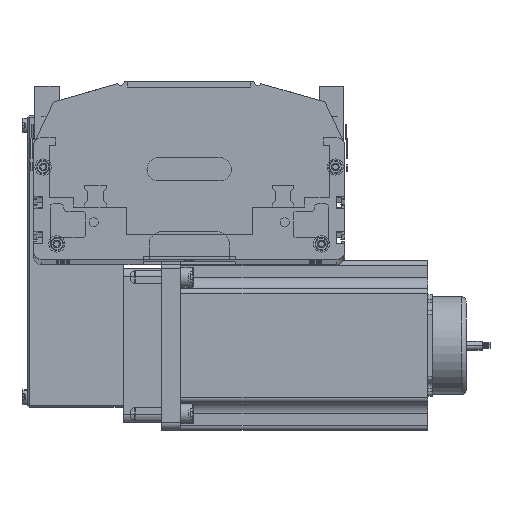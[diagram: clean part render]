
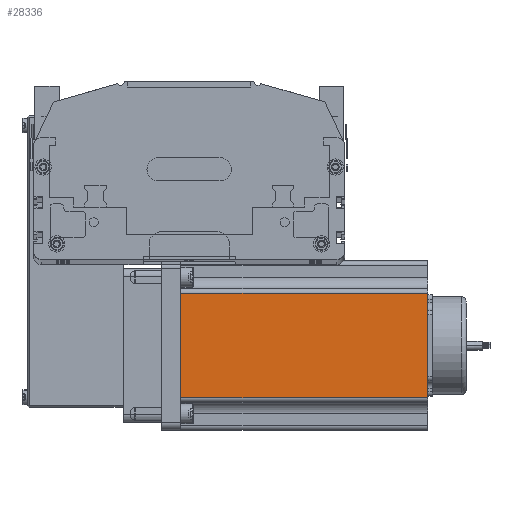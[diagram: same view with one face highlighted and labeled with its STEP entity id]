
A CAD part, top view. The second image highlights one B-rep face of the part: STEP entity #28336.
In plain terms, the highlighted planar face has unit normal (0, 0, 1) as drawn and (0, -1, 0) by its records, which use the part's own axes.
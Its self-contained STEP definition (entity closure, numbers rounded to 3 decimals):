
#28123 = ORIENTED_EDGE ( 'NONE', *, *, #28352, .T. ) ;
#28304 = EDGE_LOOP ( 'NONE', ( #28123, #28339, #28310, #28612 ) ) ;
#28310 = ORIENTED_EDGE ( 'NONE', *, *, #28599, .F. ) ;
#28336 = ADVANCED_FACE ( 'NONE', ( #39630 ), #39594, .F. ) ;
#28339 = ORIENTED_EDGE ( 'NONE', *, *, #28346, .T. ) ;
#28346 = EDGE_CURVE ( 'NONE', #28381, #28411, #39793, .T. ) ;
#28352 = EDGE_CURVE ( 'NONE', #28440, #28381, #39778, .T. ) ;
#28381 = VERTEX_POINT ( 'NONE', #39729 ) ;
#28406 = VERTEX_POINT ( 'NONE', #39840 ) ;
#28411 = VERTEX_POINT ( 'NONE', #39838 ) ;
#28440 = VERTEX_POINT ( 'NONE', #63278 ) ;
#28599 = EDGE_CURVE ( 'NONE', #28406, #28411, #63415, .T. ) ;
#28608 = EDGE_CURVE ( 'NONE', #28406, #28440, #63503, .T. ) ;
#28612 = ORIENTED_EDGE ( 'NONE', *, *, #28608, .T. ) ;
#39558 = AXIS2_PLACEMENT_3D ( 'NONE', #39592, #39582, #39581 ) ;
#39581 = DIRECTION ( 'NONE',  ( 0., 0., 1. ) ) ;
#39582 = DIRECTION ( 'NONE',  ( 0., 1., 0. ) ) ;
#39592 = CARTESIAN_POINT ( 'NONE',  ( 0., 0., 160.5 ) ) ;
#39594 = PLANE ( 'NONE',  #39558 ) ;
#39630 = FACE_OUTER_BOUND ( 'NONE', #28304, .T. ) ;
#39729 = CARTESIAN_POINT ( 'NONE',  ( 88.952, 0., 0. ) ) ;
#39774 = DIRECTION ( 'NONE',  ( 1., 0., 0. ) ) ;
#39776 = VECTOR ( 'NONE', #39774, 1000. ) ;
#39777 = CARTESIAN_POINT ( 'NONE',  ( 0., 0., 0. ) ) ;
#39778 = LINE ( 'NONE', #39777, #39776 ) ;
#39787 = DIRECTION ( 'NONE',  ( 0., 0., 1. ) ) ;
#39790 = VECTOR ( 'NONE', #39787, 1000. ) ;
#39791 = CARTESIAN_POINT ( 'NONE',  ( 88.952, 0., 160.5 ) ) ;
#39793 = LINE ( 'NONE', #39791, #39790 ) ;
#39838 = CARTESIAN_POINT ( 'NONE',  ( 88.952, 0., 160.5 ) ) ;
#39840 = CARTESIAN_POINT ( 'NONE',  ( 21.048, 0., 160.5 ) ) ;
#63278 = CARTESIAN_POINT ( 'NONE',  ( 21.048, 0., 0. ) ) ;
#63414 = CARTESIAN_POINT ( 'NONE',  ( 0., 0., 160.5 ) ) ;
#63415 = LINE ( 'NONE', #63414, #63440 ) ;
#63439 = DIRECTION ( 'NONE',  ( 1., 0., 0. ) ) ;
#63440 = VECTOR ( 'NONE', #63439, 1000. ) ;
#63498 = DIRECTION ( 'NONE',  ( 0., 0., -1. ) ) ;
#63499 = VECTOR ( 'NONE', #63498, 1000. ) ;
#63500 = CARTESIAN_POINT ( 'NONE',  ( 21.048, 0., 160.5 ) ) ;
#63503 = LINE ( 'NONE', #63500, #63499 ) ;
